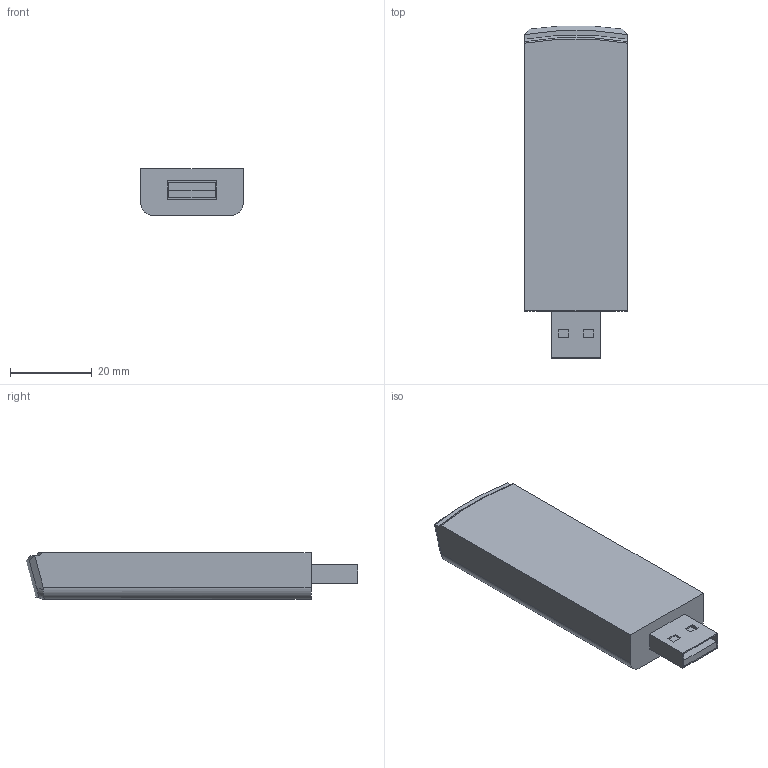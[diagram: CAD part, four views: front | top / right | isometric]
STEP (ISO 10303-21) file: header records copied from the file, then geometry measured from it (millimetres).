
FILE_DESCRIPTION (( 'STEP AP203' ), '1' );
FILE_NAME ('WIFI-KEY.STEP', '2011-02-17T21:09:25', ( '' ), ( '' ), 'SwSTEP 2.0', 'SolidWorks 2010', '' );
FILE_SCHEMA (( 'CONFIG_CONTROL_DESIGN' ));
Length unit declared in the file: inch
Products named in the file (1): WIFI-KEY
Bounding box: 25.04 x 81.25 x 11.43 mm (x, y, z)
Volume: 19588.5 mm3; surface area: 6320.5 mm2
Topology: 1 solids, 1 shells, 48 faces, 127 edges, 84 vertices
Faces by surface type: plane 37, cone 4, bspline 4, cylinder 2, torus 1
Entity records: 1674 total; most frequent: CARTESIAN_POINT 433, ORIENTED_EDGE 254, DIRECTION 204, EDGE_CURVE 127, LINE 96, VECTOR 96, VERTEX_POINT 84, EDGE_LOOP 59
